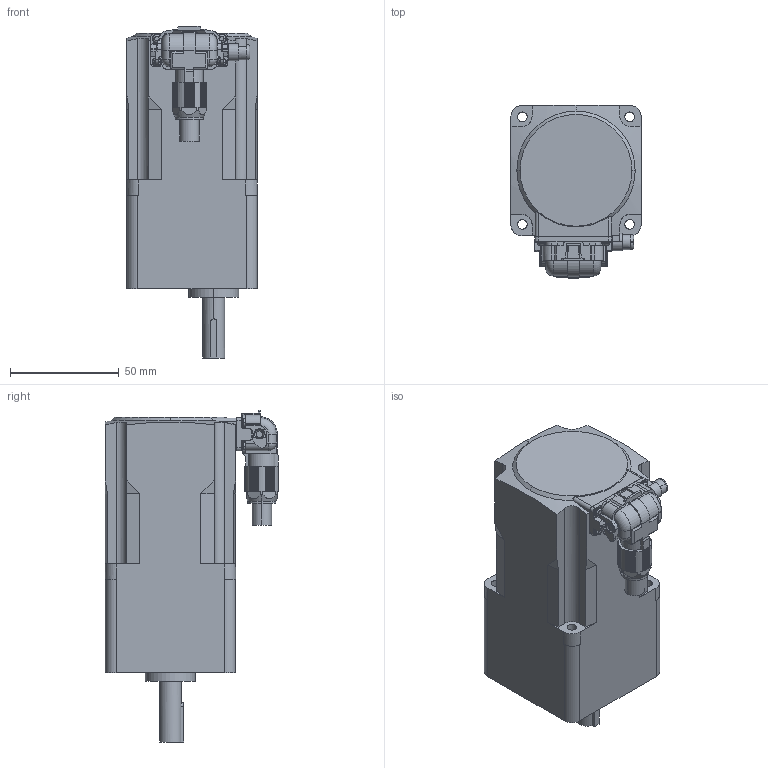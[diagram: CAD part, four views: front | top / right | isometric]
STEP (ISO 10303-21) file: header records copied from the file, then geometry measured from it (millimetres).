
FILE_DESCRIPTION (( 'STEP AP203' ), '1' );
FILE_NAME ('B1553L_F.STEP', '2023-02-20T07:27:45', ( '' ), ( '' ), 'SwSTEP 2.0', 'SolidWorks 2020', '' );
FILE_SCHEMA (( 'CONFIG_CONTROL_DESIGN' ));
Length unit declared in the file: millimetre
Products named in the file (1): B1553L_F
Bounding box: 60 x 79.9 x 152.9 mm (x, y, z)
Volume: 407402.6 mm3; surface area: 42545.3 mm2
Topology: 1 solids, 1 shells, 604 faces, 1695 edges, 1105 vertices
Faces by surface type: plane 351, cylinder 224, torus 13, cone 12, sphere 4
Entity records: 19964 total; most frequent: CARTESIAN_POINT 3981, ORIENTED_EDGE 3382, DIRECTION 3355, EDGE_CURVE 1691, AXIS2_PLACEMENT_3D 1129, VERTEX_POINT 1105, LINE 1097, VECTOR 1097
